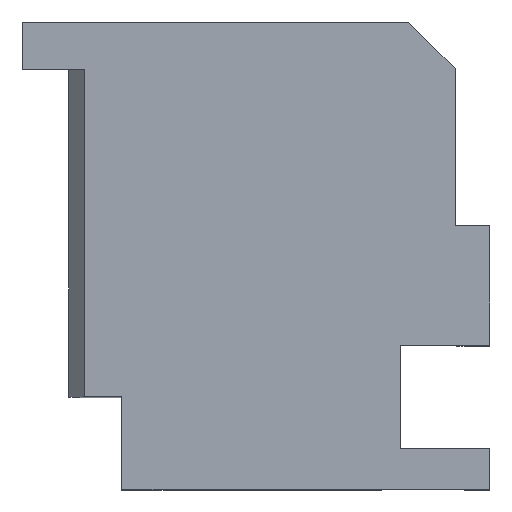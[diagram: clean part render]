
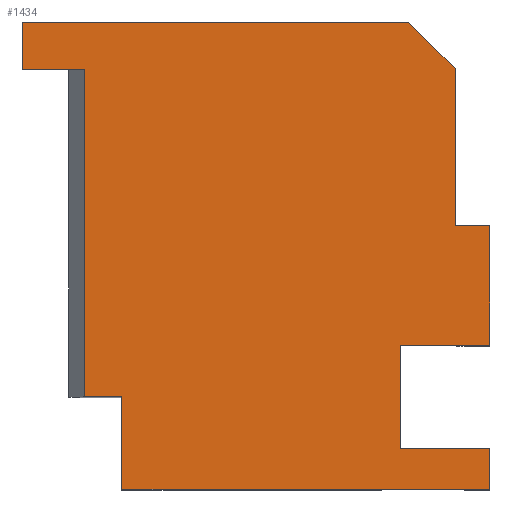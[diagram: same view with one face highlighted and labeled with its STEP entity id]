
A CAD part, top view. The second image highlights one B-rep face of the part: STEP entity #1434.
In plain terms, the highlighted planar face has unit normal (0, 0, 1).
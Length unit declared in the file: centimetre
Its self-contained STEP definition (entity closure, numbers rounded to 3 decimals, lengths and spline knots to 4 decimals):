
#33 = AXIS2_PLACEMENT_3D ( 'NONE', #426, #915, #643 ) ;
#35 = CARTESIAN_POINT ( 'NONE',  ( 0., 1000., 1000. ) ) ;
#39 = LINE ( 'NONE', #1004, #538 ) ;
#53 = VERTEX_POINT ( 'NONE', #881 ) ;
#64 = ORIENTED_EDGE ( 'NONE', *, *, #752, .T. ) ;
#73 = DIRECTION ( 'NONE',  ( 0., 1., 0. ) ) ;
#91 = DIRECTION ( 'NONE',  ( 0., 1., 0. ) ) ;
#113 = EDGE_CURVE ( 'NONE', #971, #53, #309, .T. ) ;
#121 = LINE ( 'NONE', #1319, #1323 ) ;
#123 = VECTOR ( 'NONE', #1170, 100. ) ;
#140 = VERTEX_POINT ( 'NONE', #523 ) ;
#145 = EDGE_CURVE ( 'NONE', #361, #1316, #783, .T. ) ;
#153 = PLANE ( 'NONE',  #33 ) ;
#165 = CARTESIAN_POINT ( 'NONE',  ( 1000., 0., 1000. ) ) ;
#188 = VERTEX_POINT ( 'NONE', #544 ) ;
#198 = CARTESIAN_POINT ( 'NONE',  ( 926.2364, 564.1734, 1000. ) ) ;
#218 = LINE ( 'NONE', #468, #1142 ) ;
#247 = CARTESIAN_POINT ( 'NONE',  ( 1000., 87.798, 1000. ) ) ;
#255 = LINE ( 'NONE', #1462, #1513 ) ;
#264 = ORIENTED_EDGE ( 'NONE', *, *, #720, .T. ) ;
#271 = EDGE_CURVE ( 'NONE', #1158, #980, #702, .T. ) ;
#283 = EDGE_CURVE ( 'NONE', #188, #140, #933, .T. ) ;
#287 = DIRECTION ( 'NONE',  ( -1., 0., 0. ) ) ;
#288 = VERTEX_POINT ( 'NONE', #1298 ) ;
#298 = ORIENTED_EDGE ( 'NONE', *, *, #970, .T. ) ;
#300 = CARTESIAN_POINT ( 'NONE',  ( 808.9801, 87.798, 1000. ) ) ;
#305 = VERTEX_POINT ( 'NONE', #813 ) ;
#306 = EDGE_CURVE ( 'NONE', #773, #1375, #337, .T. ) ;
#309 = LINE ( 'NONE', #300, #797 ) ;
#337 = LINE ( 'NONE', #198, #1304 ) ;
#340 = CARTESIAN_POINT ( 'NONE',  ( 808.9801, 87.798, 1000. ) ) ;
#361 = VERTEX_POINT ( 'NONE', #1176 ) ;
#365 = DIRECTION ( 'NONE',  ( 1., 0., 0. ) ) ;
#370 = VECTOR ( 'NONE', #746, 100. ) ;
#392 = DIRECTION ( 'NONE',  ( 0., -1., 0. ) ) ;
#406 = CARTESIAN_POINT ( 'NONE',  ( 0., 899.0665, 1000. ) ) ;
#410 = CARTESIAN_POINT ( 'NONE',  ( 213.0597, 0., 1000. ) ) ;
#426 = CARTESIAN_POINT ( 'NONE',  ( 0., 0., 1000. ) ) ;
#433 = EDGE_LOOP ( 'NONE', ( #537, #298, #473, #849, #1343, #1468, #635, #859, #1242, #1232, #481, #264, #64, #780, #1126 ) ) ;
#450 = DIRECTION ( 'NONE',  ( 1., 0., 0. ) ) ;
#468 = CARTESIAN_POINT ( 'NONE',  ( 1000., 564.1734, 1000. ) ) ;
#473 = ORIENTED_EDGE ( 'NONE', *, *, #145, .T. ) ;
#481 = ORIENTED_EDGE ( 'NONE', *, *, #306, .T. ) ;
#523 = CARTESIAN_POINT ( 'NONE',  ( 0., 899.0665, 1000. ) ) ;
#536 = LINE ( 'NONE', #1246, #738 ) ;
#537 = ORIENTED_EDGE ( 'NONE', *, *, #1357, .T. ) ;
#538 = VECTOR ( 'NONE', #1479, 100. ) ;
#544 = CARTESIAN_POINT ( 'NONE',  ( 0., 1000., 1000. ) ) ;
#576 = DIRECTION ( 'NONE',  ( 0., -1., 0. ) ) ;
#586 = VECTOR ( 'NONE', #576, 100. ) ;
#588 = EDGE_CURVE ( 'NONE', #1316, #1158, #121, .T. ) ;
#634 = EDGE_CURVE ( 'NONE', #980, #971, #255, .T. ) ;
#635 = ORIENTED_EDGE ( 'NONE', *, *, #113, .T. ) ;
#638 = VERTEX_POINT ( 'NONE', #1472 ) ;
#643 = DIRECTION ( 'NONE',  ( 1., 0., 0. ) ) ;
#666 = LINE ( 'NONE', #35, #370 ) ;
#687 = CARTESIAN_POINT ( 'NONE',  ( 0., 1000., 1000. ) ) ;
#702 = LINE ( 'NONE', #1174, #1062 ) ;
#720 = EDGE_CURVE ( 'NONE', #1375, #305, #1253, .T. ) ;
#738 = VECTOR ( 'NONE', #1157, 100. ) ;
#739 = VERTEX_POINT ( 'NONE', #1373 ) ;
#744 = VERTEX_POINT ( 'NONE', #1492 ) ;
#746 = DIRECTION ( 'NONE',  ( -1., 0., 0. ) ) ;
#752 = EDGE_CURVE ( 'NONE', #305, #188, #666, .T. ) ;
#763 = FACE_OUTER_BOUND ( 'NONE', #433, .T. ) ;
#767 = DIRECTION ( 'NONE',  ( -1., 0., 0. ) ) ;
#773 = VERTEX_POINT ( 'NONE', #1340 ) ;
#780 = ORIENTED_EDGE ( 'NONE', *, *, #283, .T. ) ;
#783 = LINE ( 'NONE', #1154, #1230 ) ;
#797 = VECTOR ( 'NONE', #880, 100. ) ;
#800 = CARTESIAN_POINT ( 'NONE',  ( 926.2364, 900.3877, 1000. ) ) ;
#813 = CARTESIAN_POINT ( 'NONE',  ( 826.6242, 1000., 1000. ) ) ;
#849 = ORIENTED_EDGE ( 'NONE', *, *, #588, .T. ) ;
#854 = VECTOR ( 'NONE', #1502, 100. ) ;
#859 = ORIENTED_EDGE ( 'NONE', *, *, #1266, .T. ) ;
#880 = DIRECTION ( 'NONE',  ( 0., 1., 0. ) ) ;
#881 = CARTESIAN_POINT ( 'NONE',  ( 808.9801, 308.1584, 1000. ) ) ;
#915 = DIRECTION ( 'NONE',  ( 0., 0., 1. ) ) ;
#923 = VECTOR ( 'NONE', #450, 100. ) ;
#931 = DIRECTION ( 'NONE',  ( 1., 0., 0. ) ) ;
#933 = LINE ( 'NONE', #687, #586 ) ;
#970 = EDGE_CURVE ( 'NONE', #288, #361, #1052, .T. ) ;
#971 = VERTEX_POINT ( 'NONE', #340 ) ;
#980 = VERTEX_POINT ( 'NONE', #247 ) ;
#1004 = CARTESIAN_POINT ( 'NONE',  ( 132.718, 899.0665, 1000. ) ) ;
#1052 = LINE ( 'NONE', #1528, #923 ) ;
#1062 = VECTOR ( 'NONE', #91, 100. ) ;
#1126 = ORIENTED_EDGE ( 'NONE', *, *, #1192, .F. ) ;
#1130 = CARTESIAN_POINT ( 'NONE',  ( 913.3121, 913.3121, 1000. ) ) ;
#1142 = VECTOR ( 'NONE', #931, 100. ) ;
#1153 = EDGE_CURVE ( 'NONE', #744, #638, #536, .T. ) ;
#1154 = CARTESIAN_POINT ( 'NONE',  ( 213.0597, 0., 1000. ) ) ;
#1157 = DIRECTION ( 'NONE',  ( 0., 1., 0. ) ) ;
#1158 = VERTEX_POINT ( 'NONE', #165 ) ;
#1170 = DIRECTION ( 'NONE',  ( 1., 0., 0. ) ) ;
#1174 = CARTESIAN_POINT ( 'NONE',  ( 1000., 1000., 1000. ) ) ;
#1176 = CARTESIAN_POINT ( 'NONE',  ( 213.0597, 197.7241, 1000. ) ) ;
#1192 = EDGE_CURVE ( 'NONE', #739, #140, #1351, .T. ) ;
#1206 = VECTOR ( 'NONE', #287, 100. ) ;
#1230 = VECTOR ( 'NONE', #392, 100. ) ;
#1232 = ORIENTED_EDGE ( 'NONE', *, *, #1548, .F. ) ;
#1242 = ORIENTED_EDGE ( 'NONE', *, *, #1153, .T. ) ;
#1246 = CARTESIAN_POINT ( 'NONE',  ( 1000., 1000., 1000. ) ) ;
#1253 = LINE ( 'NONE', #1130, #854 ) ;
#1266 = EDGE_CURVE ( 'NONE', #53, #744, #1526, .T. ) ;
#1298 = CARTESIAN_POINT ( 'NONE',  ( 132.718, 197.7241, 1000. ) ) ;
#1304 = VECTOR ( 'NONE', #73, 100. ) ;
#1316 = VERTEX_POINT ( 'NONE', #410 ) ;
#1319 = CARTESIAN_POINT ( 'NONE',  ( 0., 0., 1000. ) ) ;
#1323 = VECTOR ( 'NONE', #365, 100. ) ;
#1340 = CARTESIAN_POINT ( 'NONE',  ( 926.2364, 564.1734, 1000. ) ) ;
#1343 = ORIENTED_EDGE ( 'NONE', *, *, #271, .T. ) ;
#1351 = LINE ( 'NONE', #406, #1206 ) ;
#1357 = EDGE_CURVE ( 'NONE', #739, #288, #39, .T. ) ;
#1373 = CARTESIAN_POINT ( 'NONE',  ( 132.718, 899.0665, 1000. ) ) ;
#1375 = VERTEX_POINT ( 'NONE', #800 ) ;
#1434 = ADVANCED_FACE ( 'NONE', ( #763 ), #153, .T. ) ;
#1462 = CARTESIAN_POINT ( 'NONE',  ( 808.9801, 87.798, 1000. ) ) ;
#1468 = ORIENTED_EDGE ( 'NONE', *, *, #634, .T. ) ;
#1472 = CARTESIAN_POINT ( 'NONE',  ( 1000., 564.1734, 1000. ) ) ;
#1479 = DIRECTION ( 'NONE',  ( 0., -1., 0. ) ) ;
#1492 = CARTESIAN_POINT ( 'NONE',  ( 1000., 308.1584, 1000. ) ) ;
#1502 = DIRECTION ( 'NONE',  ( -0.707, 0.707, 0. ) ) ;
#1513 = VECTOR ( 'NONE', #767, 100. ) ;
#1526 = LINE ( 'NONE', #1532, #123 ) ;
#1528 = CARTESIAN_POINT ( 'NONE',  ( 0., 197.7241, 1000. ) ) ;
#1532 = CARTESIAN_POINT ( 'NONE',  ( 808.9801, 308.1584, 1000. ) ) ;
#1548 = EDGE_CURVE ( 'NONE', #773, #638, #218, .T. ) ;
